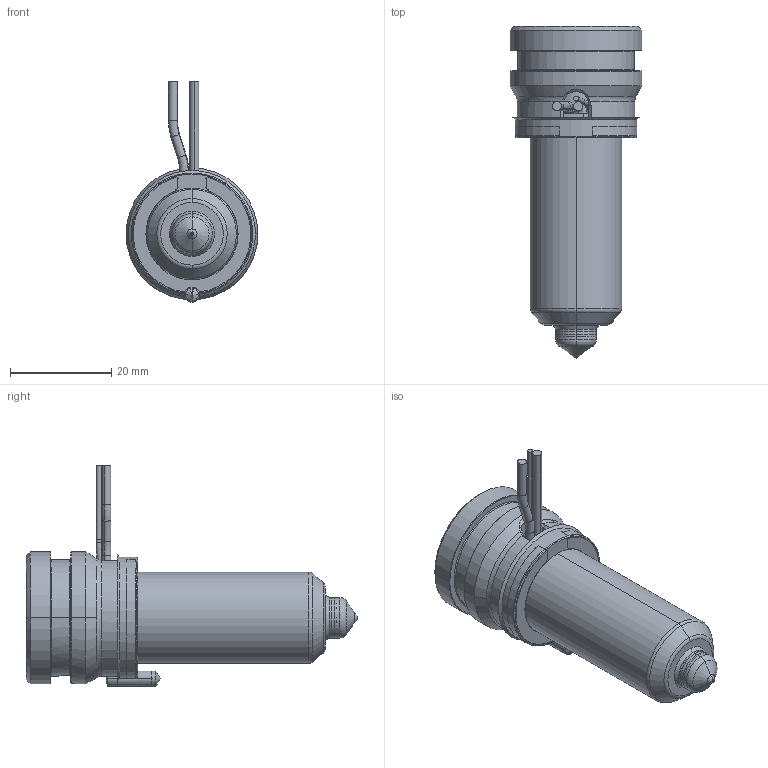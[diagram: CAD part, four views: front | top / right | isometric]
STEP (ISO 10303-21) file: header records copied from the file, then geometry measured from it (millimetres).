
FILE_DESCRIPTION((''),'2;1');
FILE_NAME('MPN-08-24-TX8-046-A','2026-02-05T11:54:02',('UPTIO'),('Thermoplay S.p.A.'),'CREO PARAMETRIC BY PTC INC, 2023494','CREO PARAMETRIC BY PTC INC, 2023494','');
FILE_SCHEMA(('CONFIG_CONTROL_DESIGN','SHAPE_APPEARANCE_LAYERS_GROUPS'));
Length unit declared in the file: millimetre
Products named in the file (1): MPN-08-24-TX8-046-A
Bounding box: 26 x 65.5 x 43.5 mm (x, y, z)
Volume: 14566.6 mm3; surface area: 16712.4 mm2
Topology: 2 solids, 3 shells, 526 faces, 1410 edges, 877 vertices
Faces by surface type: cylinder 180, plane 135, bspline 73, cone 60, torus 60, sphere 12, extrusion 6
Entity records: 29131 total; most frequent: CARTESIAN_POINT 13388, ORIENTED_EDGE 2800, DIRECTION 2487, EDGE_CURVE 1400, AXIS2_PLACEMENT_3D 972, VERTEX_POINT 877, EDGE_LOOP 553, VECTOR 543
